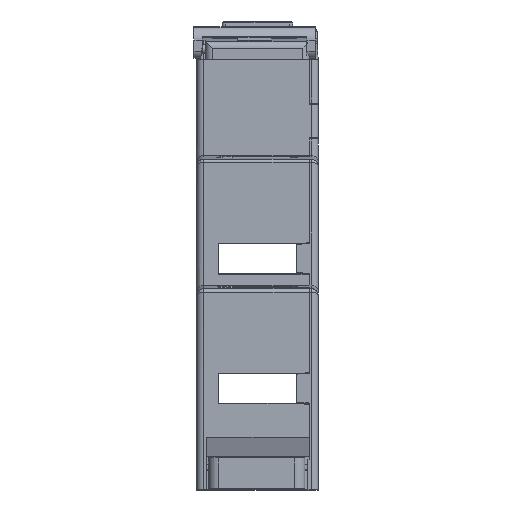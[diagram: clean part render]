
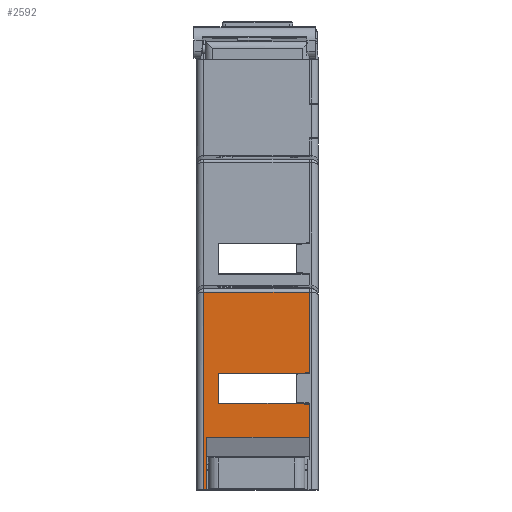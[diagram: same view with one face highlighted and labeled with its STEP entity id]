
A CAD part, left-side view. The second image highlights one B-rep face of the part: STEP entity #2592.
In plain terms, the highlighted planar face has unit normal (-1, 0, 0).
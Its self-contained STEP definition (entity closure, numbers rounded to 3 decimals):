
#2592 = ADVANCED_FACE( '', ( #5398 ), #5399, .T. );
#5398 = FACE_OUTER_BOUND( '', #10911, .T. );
#5399 = PLANE( '', #10912 );
#10911 = EDGE_LOOP( '', ( #19093, #19094, #19095, #19096, #19097, #19098, #19099, #19100, #19101, #19102, #19103, #19104 ) );
#10912 = AXIS2_PLACEMENT_3D( '', #19105, #19106, #19107 );
#19093 = ORIENTED_EDGE( '', *, *, #22180, .T. );
#19094 = ORIENTED_EDGE( '', *, *, #24262, .T. );
#19095 = ORIENTED_EDGE( '', *, *, #21538, .T. );
#19096 = ORIENTED_EDGE( '', *, *, #21715, .T. );
#19097 = ORIENTED_EDGE( '', *, *, #23643, .T. );
#19098 = ORIENTED_EDGE( '', *, *, #23992, .T. );
#19099 = ORIENTED_EDGE( '', *, *, #23958, .T. );
#19100 = ORIENTED_EDGE( '', *, *, #24263, .F. );
#19101 = ORIENTED_EDGE( '', *, *, #24264, .T. );
#19102 = ORIENTED_EDGE( '', *, *, #24265, .T. );
#19103 = ORIENTED_EDGE( '', *, *, #22265, .T. );
#19104 = ORIENTED_EDGE( '', *, *, #22743, .T. );
#19105 = CARTESIAN_POINT( '', ( -42.5, 1.503, -3. ) );
#19106 = DIRECTION( '', ( -1., 0., 0. ) );
#19107 = DIRECTION( '', ( 0., 0., 1. ) );
#21538 = EDGE_CURVE( '', #25697, #25698, #25699, .T. );
#21715 = EDGE_CURVE( '', #25698, #25998, #26000, .T. );
#22180 = EDGE_CURVE( '', #26779, #26777, #26780, .T. );
#22265 = EDGE_CURVE( '', #26901, #26905, #26907, .T. );
#22743 = EDGE_CURVE( '', #26905, #26779, #27667, .T. );
#23643 = EDGE_CURVE( '', #25998, #28906, #28907, .T. );
#23958 = EDGE_CURVE( '', #29300, #29304, #29306, .T. );
#23992 = EDGE_CURVE( '', #28906, #29300, #29343, .T. );
#24262 = EDGE_CURVE( '', #26777, #25697, #29663, .T. );
#24263 = EDGE_CURVE( '', #29664, #29304, #29665, .T. );
#24264 = EDGE_CURVE( '', #29664, #29666, #29667, .T. );
#24265 = EDGE_CURVE( '', #29666, #26901, #29668, .T. );
#25697 = VERTEX_POINT( '', #31596 );
#25698 = VERTEX_POINT( '', #31597 );
#25699 = LINE( '', #31598, #31599 );
#25998 = VERTEX_POINT( '', #32019 );
#26000 = LINE( '', #32022, #32023 );
#26777 = VERTEX_POINT( '', #33149 );
#26779 = VERTEX_POINT( '', #33151 );
#26780 = LINE( '', #33152, #33153 );
#26901 = VERTEX_POINT( '', #33326 );
#26905 = VERTEX_POINT( '', #33332 );
#26907 = LINE( '', #33335, #33336 );
#27667 = LINE( '', #34484, #34485 );
#28906 = VERTEX_POINT( '', #36338 );
#28907 = LINE( '', #36339, #36340 );
#29300 = VERTEX_POINT( '', #36919 );
#29304 = VERTEX_POINT( '', #36925 );
#29306 = LINE( '', #36928, #36929 );
#29343 = LINE( '', #36984, #36985 );
#29663 = LINE( '', #37460, #37461 );
#29664 = VERTEX_POINT( '', #37462 );
#29665 = LINE( '', #37463, #37464 );
#29666 = VERTEX_POINT( '', #37465 );
#29667 = LINE( '', #37466, #37467 );
#29668 = LINE( '', #37468, #37469 );
#31596 = CARTESIAN_POINT( '', ( -42.5, 0.06, -35.5 ) );
#31597 = CARTESIAN_POINT( '', ( -42.5, -0.437, -35.5 ) );
#31598 = CARTESIAN_POINT( '', ( -42.5, 107.357, -35.5 ) );
#31599 = VECTOR( '', #38549, 1000. );
#32019 = CARTESIAN_POINT( '', ( -42.5, -0.437, -27.698 ) );
#32022 = CARTESIAN_POINT( '', ( -42.5, -0.437, -27.698 ) );
#32023 = VECTOR( '', #38747, 1000. );
#33149 = CARTESIAN_POINT( '', ( -42.5, 0.06, -6.201 ) );
#33151 = CARTESIAN_POINT( '', ( -42.5, -15.637, -6.201 ) );
#33152 = CARTESIAN_POINT( '', ( -42.5, 1.503, -6.201 ) );
#33153 = VECTOR( '', #39222, 1000. );
#33326 = CARTESIAN_POINT( '', ( -42.5, -14.121, -18.21 ) );
#33332 = CARTESIAN_POINT( '', ( -42.5, -15.637, -18.121 ) );
#33335 = CARTESIAN_POINT( '', ( -42.5, 0.558, -19.074 ) );
#33336 = VECTOR( '', #39308, 1000. );
#34484 = CARTESIAN_POINT( '', ( -42.5, -15.637, -4. ) );
#34485 = VECTOR( '', #39785, 1000. );
#36338 = CARTESIAN_POINT( '', ( -42.5, -15.64, -27.698 ) );
#36339 = CARTESIAN_POINT( '', ( -42.5, -0.537, -27.698 ) );
#36340 = VECTOR( '', #40575, 1000. );
#36919 = CARTESIAN_POINT( '', ( -42.5, -15.64, -22.806 ) );
#36925 = CARTESIAN_POINT( '', ( -42.5, -13.996, -22.709 ) );
#36928 = CARTESIAN_POINT( '', ( -42.5, 2.607, -21.729 ) );
#36929 = VECTOR( '', #40864, 1000. );
#36984 = CARTESIAN_POINT( '', ( -42.5, -15.64, -3. ) );
#36985 = VECTOR( '', #40892, 1000. );
#37460 = CARTESIAN_POINT( '', ( -42.5, 0.06, -35.5 ) );
#37461 = VECTOR( '', #41085, 1000. );
#37462 = CARTESIAN_POINT( '', ( -42.5, -2.199, -22.709 ) );
#37463 = CARTESIAN_POINT( '', ( -42.5, -4.699, -22.709 ) );
#37464 = VECTOR( '', #41086, 1000. );
#37465 = CARTESIAN_POINT( '', ( -42.5, -2.199, -18.21 ) );
#37466 = CARTESIAN_POINT( '', ( -42.5, -2.199, -16.184 ) );
#37467 = VECTOR( '', #41087, 1000. );
#37468 = CARTESIAN_POINT( '', ( -42.5, 1.503, -18.21 ) );
#37469 = VECTOR( '', #41088, 1000. );
#38549 = DIRECTION( '', ( 0., -1., 0. ) );
#38747 = DIRECTION( '', ( 0., 0., 1. ) );
#39222 = DIRECTION( '', ( 0., 1., 0. ) );
#39308 = DIRECTION( '', ( 0., -0.998, 0.059 ) );
#39785 = DIRECTION( '', ( 0., 0., 1. ) );
#40575 = DIRECTION( '', ( 0., -1., 0. ) );
#40864 = DIRECTION( '', ( 0., 0.998, 0.059 ) );
#40892 = DIRECTION( '', ( 0., 0., 1. ) );
#41085 = DIRECTION( '', ( 0., 0., -1. ) );
#41086 = DIRECTION( '', ( 0., -1., 0. ) );
#41087 = DIRECTION( '', ( 0., 0., 1. ) );
#41088 = DIRECTION( '', ( 0., -1., 0. ) );
